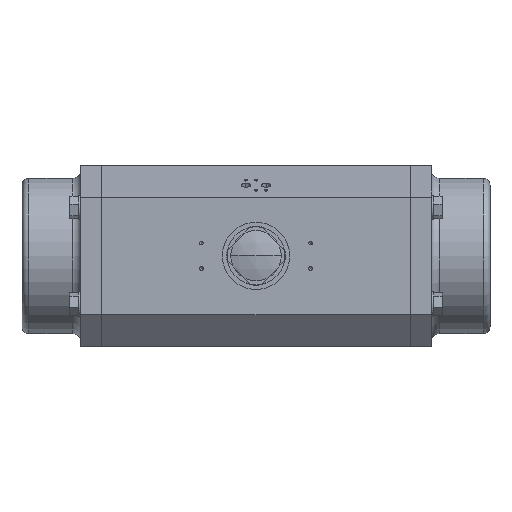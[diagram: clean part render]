
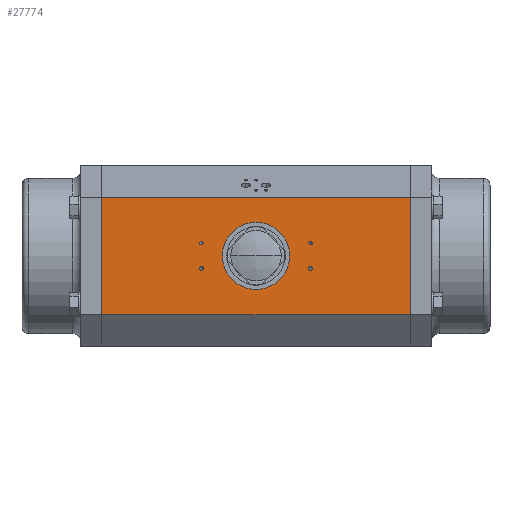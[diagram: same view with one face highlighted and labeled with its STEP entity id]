
A CAD part, top view. The second image highlights one B-rep face of the part: STEP entity #27774.
In plain terms, the highlighted planar face has unit normal (0, 0, 1) as drawn and (0, 1, 0) by its records, which use the part's own axes.
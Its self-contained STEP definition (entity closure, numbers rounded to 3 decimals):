
#772 = VERTEX_POINT ( 'NONE', #32506 ) ;
#1049 = ORIENTED_EDGE ( 'NONE', *, *, #26570, .T. ) ;
#1095 = DIRECTION ( 'NONE',  ( 0., 0., 1. ) ) ;
#1464 = LINE ( 'NONE', #36583, #54143 ) ;
#3111 = FACE_BOUND ( 'NONE', #44920, .T. ) ;
#3892 = AXIS2_PLACEMENT_3D ( 'NONE', #59783, #29260, #64874 ) ;
#4500 = CARTESIAN_POINT ( 'NONE',  ( 0., 125., 0. ) ) ;
#4680 = FACE_BOUND ( 'NONE', #24317, .T. ) ;
#4783 = CARTESIAN_POINT ( 'NONE',  ( 15., 125., 67.1 ) ) ;
#6313 = CARTESIAN_POINT ( 'NONE',  ( 15., 125., -65. ) ) ;
#6519 = CIRCLE ( 'NONE', #17487, 2.1 ) ;
#7217 = EDGE_CURVE ( 'NONE', #60278, #41379, #21587, .T. ) ;
#7585 = VERTEX_POINT ( 'NONE', #34104 ) ;
#7929 = CARTESIAN_POINT ( 'NONE',  ( 15., 125., 65. ) ) ;
#9225 = CARTESIAN_POINT ( 'NONE',  ( 0., 125., 0. ) ) ;
#9341 = ORIENTED_EDGE ( 'NONE', *, *, #7217, .F. ) ;
#9589 = DIRECTION ( 'NONE',  ( 0., 0., -1. ) ) ;
#11404 = DIRECTION ( 'NONE',  ( 0., 0., 1. ) ) ;
#11699 = VERTEX_POINT ( 'NONE', #14012 ) ;
#11788 = VECTOR ( 'NONE', #47493, 1000. ) ;
#12722 = CIRCLE ( 'NONE', #49133, 2.1 ) ;
#12759 = CARTESIAN_POINT ( 'NONE',  ( -70., 125., 183.5 ) ) ;
#13054 = DIRECTION ( 'NONE',  ( 0., 0., -1. ) ) ;
#13192 = CIRCLE ( 'NONE', #37627, 2.1 ) ;
#13482 = EDGE_CURVE ( 'NONE', #20494, #50754, #47280, .T. ) ;
#14012 = CARTESIAN_POINT ( 'NONE',  ( 15., 125., 62.9 ) ) ;
#14025 = EDGE_CURVE ( 'NONE', #772, #30473, #6519, .T. ) ;
#14373 = DIRECTION ( 'NONE',  ( 0., 0., -1. ) ) ;
#14855 = DIRECTION ( 'NONE',  ( 0., -1., 0. ) ) ;
#15927 = EDGE_CURVE ( 'NONE', #33244, #11699, #23796, .T. ) ;
#16691 = FACE_OUTER_BOUND ( 'NONE', #39386, .T. ) ;
#16787 = CIRCLE ( 'NONE', #36170, 2.1 ) ;
#16850 = EDGE_CURVE ( 'NONE', #18952, #20494, #1464, .T. ) ;
#17017 = EDGE_CURVE ( 'NONE', #7585, #50754, #25374, .T. ) ;
#17487 = AXIS2_PLACEMENT_3D ( 'NONE', #62186, #31665, #1095 ) ;
#17734 = CARTESIAN_POINT ( 'NONE',  ( 70., 125., 183.5 ) ) ;
#18299 = FACE_BOUND ( 'NONE', #51568, .T. ) ;
#18952 = VERTEX_POINT ( 'NONE', #33460 ) ;
#20167 = VECTOR ( 'NONE', #48481, 1000. ) ;
#20494 = VERTEX_POINT ( 'NONE', #21560 ) ;
#21463 = DIRECTION ( 'NONE',  ( 0., 0., 1. ) ) ;
#21560 = CARTESIAN_POINT ( 'NONE',  ( -70., 125., 183.5 ) ) ;
#21587 = CIRCLE ( 'NONE', #23472, 2.1 ) ;
#23472 = AXIS2_PLACEMENT_3D ( 'NONE', #6313, #42031, #11404 ) ;
#23796 = CIRCLE ( 'NONE', #52104, 2.1 ) ;
#23882 = EDGE_CURVE ( 'NONE', #45439, #34128, #16787, .T. ) ;
#24140 = DIRECTION ( 'NONE',  ( 0., -1., 0. ) ) ;
#24317 = EDGE_LOOP ( 'NONE', ( #31568, #36983 ) ) ;
#25374 = LINE ( 'NONE', #42401, #11788 ) ;
#26065 = VERTEX_POINT ( 'NONE', #34356 ) ;
#26570 = EDGE_CURVE ( 'NONE', #34128, #45439, #31139, .T. ) ;
#26685 = DIRECTION ( 'NONE',  ( 0., 1., 0. ) ) ;
#27302 = ORIENTED_EDGE ( 'NONE', *, *, #13482, .T. ) ;
#27774 = ADVANCED_FACE ( 'NONE', ( #30257, #18299, #31834, #4680, #16691, #3111 ), #49515, .F. ) ;
#27867 = CIRCLE ( 'NONE', #32694, 2.1 ) ;
#28507 = ORIENTED_EDGE ( 'NONE', *, *, #17017, .F. ) ;
#28722 = LINE ( 'NONE', #34257, #54236 ) ;
#29102 = ORIENTED_EDGE ( 'NONE', *, *, #15927, .F. ) ;
#29260 = DIRECTION ( 'NONE',  ( 0., -1., 0. ) ) ;
#29567 = CARTESIAN_POINT ( 'NONE',  ( 15., 125., -65. ) ) ;
#30257 = FACE_BOUND ( 'NONE', #65160, .T. ) ;
#30295 = DIRECTION ( 'NONE',  ( 0., 1., 0. ) ) ;
#30473 = VERTEX_POINT ( 'NONE', #53519 ) ;
#30609 = EDGE_CURVE ( 'NONE', #11699, #33244, #13192, .T. ) ;
#31139 = CIRCLE ( 'NONE', #63670, 2.1 ) ;
#31568 = ORIENTED_EDGE ( 'NONE', *, *, #14025, .F. ) ;
#31665 = DIRECTION ( 'NONE',  ( 0., 1., 0. ) ) ;
#31834 = FACE_BOUND ( 'NONE', #53945, .T. ) ;
#32506 = CARTESIAN_POINT ( 'NONE',  ( -15., 125., -62.9 ) ) ;
#32694 = AXIS2_PLACEMENT_3D ( 'NONE', #29567, #65210, #34653 ) ;
#33244 = VERTEX_POINT ( 'NONE', #4783 ) ;
#33460 = CARTESIAN_POINT ( 'NONE',  ( -70., 125., -183.5 ) ) ;
#34104 = CARTESIAN_POINT ( 'NONE',  ( 70., 125., -183.5 ) ) ;
#34128 = VERTEX_POINT ( 'NONE', #61061 ) ;
#34257 = CARTESIAN_POINT ( 'NONE',  ( -70., 125., -183.5 ) ) ;
#34356 = CARTESIAN_POINT ( 'NONE',  ( 0., 125., -40. ) ) ;
#34653 = DIRECTION ( 'NONE',  ( 0., 0., 1. ) ) ;
#36170 = AXIS2_PLACEMENT_3D ( 'NONE', #54704, #24140, #59820 ) ;
#36213 = CARTESIAN_POINT ( 'NONE',  ( -15., 125., 67.1 ) ) ;
#36298 = ORIENTED_EDGE ( 'NONE', *, *, #30609, .F. ) ;
#36583 = CARTESIAN_POINT ( 'NONE',  ( -70., 125., -183.5 ) ) ;
#36983 = ORIENTED_EDGE ( 'NONE', *, *, #65576, .F. ) ;
#37627 = AXIS2_PLACEMENT_3D ( 'NONE', #60796, #30295, #65906 ) ;
#38854 = CARTESIAN_POINT ( 'NONE',  ( 15., 125., -62.9 ) ) ;
#39019 = ORIENTED_EDGE ( 'NONE', *, *, #65794, .F. ) ;
#39340 = DIRECTION ( 'NONE',  ( 1., 0., 0. ) ) ;
#39386 = EDGE_LOOP ( 'NONE', ( #42828, #27302, #28507, #39019 ) ) ;
#40146 = DIRECTION ( 'NONE',  ( 0., 1., 0. ) ) ;
#40341 = AXIS2_PLACEMENT_3D ( 'NONE', #4500, #40146, #9589 ) ;
#41379 = VERTEX_POINT ( 'NONE', #45360 ) ;
#41715 = CIRCLE ( 'NONE', #40341, 40. ) ;
#42031 = DIRECTION ( 'NONE',  ( 0., 1., 0. ) ) ;
#42401 = CARTESIAN_POINT ( 'NONE',  ( 70., 125., -183.5 ) ) ;
#42828 = ORIENTED_EDGE ( 'NONE', *, *, #16850, .T. ) ;
#43658 = DIRECTION ( 'NONE',  ( 0., 1., 0. ) ) ;
#44531 = EDGE_CURVE ( 'NONE', #41379, #60278, #27867, .T. ) ;
#44896 = DIRECTION ( 'NONE',  ( 0., 1., 0. ) ) ;
#44920 = EDGE_LOOP ( 'NONE', ( #56367, #61177 ) ) ;
#45360 = CARTESIAN_POINT ( 'NONE',  ( 15., 125., -67.1 ) ) ;
#45380 = CARTESIAN_POINT ( 'NONE',  ( -15., 125., 65. ) ) ;
#45439 = VERTEX_POINT ( 'NONE', #36213 ) ;
#47280 = LINE ( 'NONE', #12759, #20167 ) ;
#47493 = DIRECTION ( 'NONE',  ( 0., 0., 1. ) ) ;
#47847 = AXIS2_PLACEMENT_3D ( 'NONE', #9225, #44896, #14373 ) ;
#48481 = DIRECTION ( 'NONE',  ( 1., 0., 0. ) ) ;
#49133 = AXIS2_PLACEMENT_3D ( 'NONE', #57257, #26685, #62339 ) ;
#49515 = PLANE ( 'NONE',  #3892 ) ;
#49779 = VERTEX_POINT ( 'NONE', #64292 ) ;
#50524 = DIRECTION ( 'NONE',  ( 0., 0., -1. ) ) ;
#50640 = ORIENTED_EDGE ( 'NONE', *, *, #44531, .F. ) ;
#50754 = VERTEX_POINT ( 'NONE', #17734 ) ;
#51568 = EDGE_LOOP ( 'NONE', ( #36298, #29102 ) ) ;
#52104 = AXIS2_PLACEMENT_3D ( 'NONE', #7929, #43658, #13054 ) ;
#53519 = CARTESIAN_POINT ( 'NONE',  ( -15., 125., -67.1 ) ) ;
#53945 = EDGE_LOOP ( 'NONE', ( #1049, #61049 ) ) ;
#54143 = VECTOR ( 'NONE', #21463, 1000. ) ;
#54236 = VECTOR ( 'NONE', #39340, 1000. ) ;
#54704 = CARTESIAN_POINT ( 'NONE',  ( -15., 125., 65. ) ) ;
#56367 = ORIENTED_EDGE ( 'NONE', *, *, #65889, .F. ) ;
#57257 = CARTESIAN_POINT ( 'NONE',  ( -15., 125., -65. ) ) ;
#59783 = CARTESIAN_POINT ( 'NONE',  ( -70., 125., -183.5 ) ) ;
#59820 = DIRECTION ( 'NONE',  ( 0., 0., -1. ) ) ;
#60278 = VERTEX_POINT ( 'NONE', #38854 ) ;
#60381 = EDGE_CURVE ( 'NONE', #49779, #26065, #41715, .T. ) ;
#60796 = CARTESIAN_POINT ( 'NONE',  ( 15., 125., 65. ) ) ;
#61049 = ORIENTED_EDGE ( 'NONE', *, *, #23882, .T. ) ;
#61061 = CARTESIAN_POINT ( 'NONE',  ( -15., 125., 62.9 ) ) ;
#61177 = ORIENTED_EDGE ( 'NONE', *, *, #60381, .F. ) ;
#62186 = CARTESIAN_POINT ( 'NONE',  ( -15., 125., -65. ) ) ;
#62339 = DIRECTION ( 'NONE',  ( 0., 0., 1. ) ) ;
#63670 = AXIS2_PLACEMENT_3D ( 'NONE', #45380, #14855, #50524 ) ;
#64292 = CARTESIAN_POINT ( 'NONE',  ( 0., 125., 40. ) ) ;
#64874 = DIRECTION ( 'NONE',  ( 0., 0., -1. ) ) ;
#65160 = EDGE_LOOP ( 'NONE', ( #9341, #50640 ) ) ;
#65210 = DIRECTION ( 'NONE',  ( 0., 1., 0. ) ) ;
#65576 = EDGE_CURVE ( 'NONE', #30473, #772, #12722, .T. ) ;
#65794 = EDGE_CURVE ( 'NONE', #18952, #7585, #28722, .T. ) ;
#65889 = EDGE_CURVE ( 'NONE', #26065, #49779, #66150, .T. ) ;
#65906 = DIRECTION ( 'NONE',  ( 0., 0., -1. ) ) ;
#66150 = CIRCLE ( 'NONE', #47847, 40. ) ;
